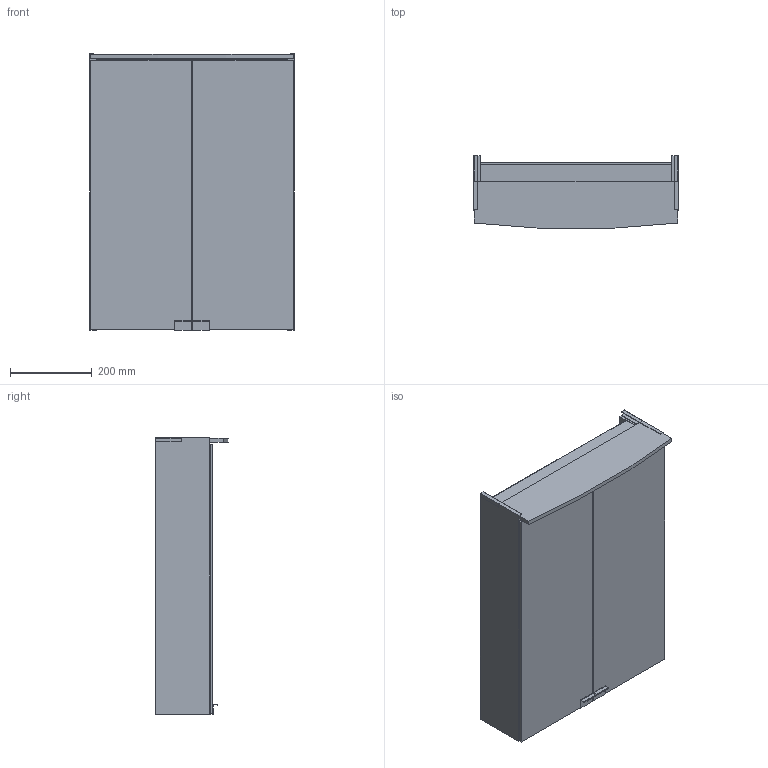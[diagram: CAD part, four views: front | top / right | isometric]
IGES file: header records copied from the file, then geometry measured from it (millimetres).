
Global section: file name: 500257; native system: Autodesk Inventor 2018; preprocessor: unknown; author: JANAN; date: 20200113.154528; units: millimetre
Bounding box: 500 x 178.35 x 677 mm (x, y, z)
Volume: 9378471.3 mm3; surface area: 2336123.2 mm2
Topology: 3 solids, 3 shells, 90 faces, 250 edges, 166 vertices
Faces by surface type: bspline 90
